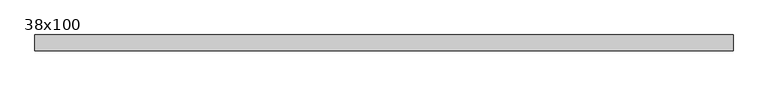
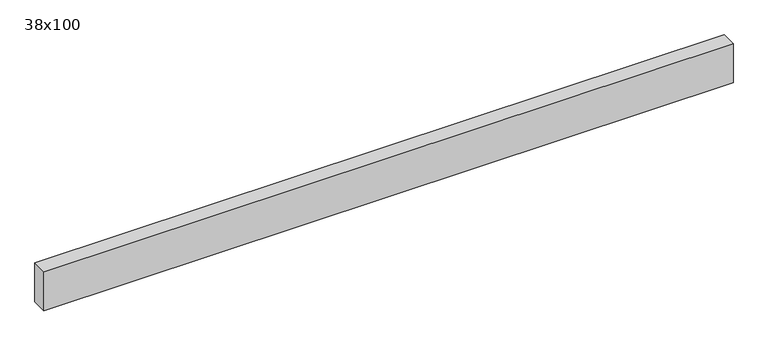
"""IFC4 building model written with IfcOpenShell, lengths in millimetres: beam geometry, Poutre - Bois de construction de dimensions courantes : 38x100."""

from ifc_helpers import new_model, si_unit, frame, origin, place, context, project, spatial, polyline, outline, extrude, source, transform, mapped, element, save


def beam_38x100_4a1636e8(model_context):
    return source(origin(), model_context, "Body", "SweptSolid", [
        extrude(outline(polyline([(785.0, 19.05), (785.0, -19.05), (-887.0, -19.05), (-887.0, 19.05), (785.0, 19.05)])), frame((0.0, 0.0, -50.0), z_axis=(0.0, 0.0, 1.0), x_axis=(1.0, 0.0, 0.0)), (0.0, 0.0, 1.0), 100.0),
    ])


if __name__ == "__main__":
    model = new_model("IFC4")
    model_context = context("Model", 3, world=origin())
    ifc_project = project(units=[si_unit("LENGTHUNIT", "METRE", prefix="MILLI")], contexts=[model_context])
    site = spatial("IfcSite", under=ifc_project)
    building = spatial("IfcBuilding", under=site)
    placement = place(None, origin())
    beam_38x100_shape = beam_38x100_4a1636e8(model_context)
    element("IfcBeam", 1, ObjectType="Poutre - Bois de construction de dimensions courantes : 38x100", at=placement, inside=building, context=model_context, shape_type="MappedRepresentation", body=[
        mapped(beam_38x100_shape, transform((0.0, 0.0, 0.0), x_axis=(1.0, 0.0, 0.0), y_axis=(0.0, 1.0, 0.0), z_axis=(0.0, 0.0, 1.0))),
    ])
    save(model, "model.ifc")
